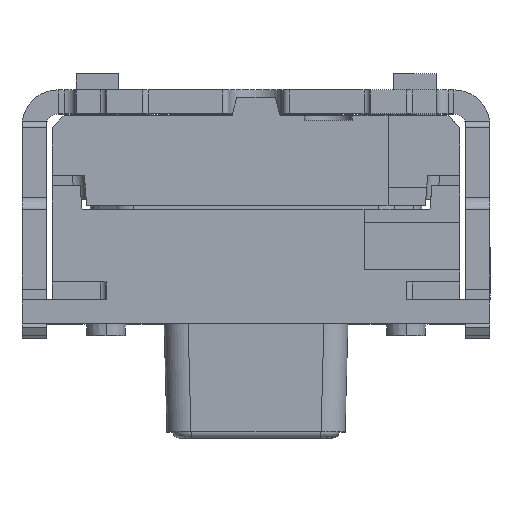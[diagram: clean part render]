
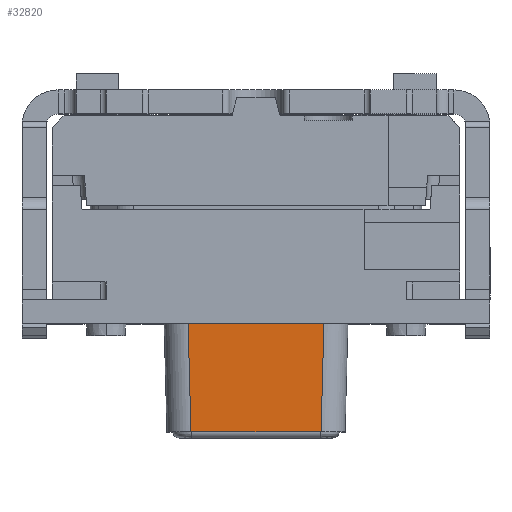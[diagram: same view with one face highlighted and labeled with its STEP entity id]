
A CAD part, top view. The second image highlights one B-rep face of the part: STEP entity #32820.
In plain terms, the highlighted planar face has unit normal (0, -0.018, 1).
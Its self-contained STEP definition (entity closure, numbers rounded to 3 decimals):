
#31582 = PLANE('',#31583);
#31583 = AXIS2_PLACEMENT_3D('',#31584,#31585,#31586);
#31584 = CARTESIAN_POINT('',(0.,-0.2,0.775));
#31585 = DIRECTION('',(0.,-1.,0.));
#31586 = DIRECTION('',(0.,0.,-1.));
#32188 = VERTEX_POINT('',#32189);
#32189 = CARTESIAN_POINT('',(-0.575,-0.2,1.225));
#32205 = CYLINDRICAL_SURFACE('',#32206,0.2);
#32206 = AXIS2_PLACEMENT_3D('',#32207,#32208,#32209);
#32207 = CARTESIAN_POINT('',(-0.575,-0.199,
    1.025));
#32208 = DIRECTION('',(-0.026,1.,
    0.017));
#32209 = DIRECTION('',(1.,0.026,
    0.));
#32239 = EDGE_CURVE('',#32240,#32188,#32242,.T.);
#32240 = VERTEX_POINT('',#32241);
#32241 = CARTESIAN_POINT('',(0.575,-0.2,1.225));
#32242 = SURFACE_CURVE('',#32243,(#32247,#32254),.PCURVE_S1.);
#32243 = LINE('',#32244,#32245);
#32244 = CARTESIAN_POINT('',(-1.063,-0.2,1.225));
#32245 = VECTOR('',#32246,1.);
#32246 = DIRECTION('',(-1.,-0.,0.));
#32247 = PCURVE('',#31582,#32248);
#32248 = DEFINITIONAL_REPRESENTATION('',(#32249),#32253);
#32249 = LINE('',#32250,#32251);
#32250 = CARTESIAN_POINT('',(-0.45,-1.063));
#32251 = VECTOR('',#32252,1.);
#32252 = DIRECTION('',(-0.,-1.));
#32253 = ( GEOMETRIC_REPRESENTATION_CONTEXT(2) 
PARAMETRIC_REPRESENTATION_CONTEXT() REPRESENTATION_CONTEXT('2D SPACE',''
  ) );
#32254 = PCURVE('',#32255,#32260);
#32255 = PLANE('',#32256);
#32256 = AXIS2_PLACEMENT_3D('',#32257,#32258,#32259);
#32257 = CARTESIAN_POINT('',(0.,-0.2,1.225));
#32258 = DIRECTION('',(0.,-0.017,1.));
#32259 = DIRECTION('',(0.,-1.,-0.017));
#32260 = DEFINITIONAL_REPRESENTATION('',(#32261),#32265);
#32261 = LINE('',#32262,#32263);
#32262 = CARTESIAN_POINT('',(-0.,-1.063));
#32263 = VECTOR('',#32264,1.);
#32264 = DIRECTION('',(-0.,-1.));
#32265 = ( GEOMETRIC_REPRESENTATION_CONTEXT(2) 
PARAMETRIC_REPRESENTATION_CONTEXT() REPRESENTATION_CONTEXT('2D SPACE',''
  ) );
#32285 = CYLINDRICAL_SURFACE('',#32286,0.2);
#32286 = AXIS2_PLACEMENT_3D('',#32287,#32288,#32289);
#32287 = CARTESIAN_POINT('',(0.575,-0.212,
    1.025));
#32288 = DIRECTION('',(0.026,1.,
    0.017));
#32289 = DIRECTION('',(1.,-0.026,
    0.));
#32766 = PLANE('',#32767);
#32767 = AXIS2_PLACEMENT_3D('',#32768,#32769,#32770);
#32768 = CARTESIAN_POINT('',(0.091,-1.45,1.007));
#32769 = DIRECTION('',(0.,-1.,0.));
#32770 = DIRECTION('',(0.,0.,-1.));
#32820 = ADVANCED_FACE('',(#32821),#32255,.T.);
#32821 = FACE_BOUND('',#32822,.T.);
#32822 = EDGE_LOOP('',(#32823,#32848,#32869,#32870));
#32823 = ORIENTED_EDGE('',*,*,#32824,.F.);
#32824 = EDGE_CURVE('',#32825,#32827,#32829,.T.);
#32825 = VERTEX_POINT('',#32826);
#32826 = CARTESIAN_POINT('',(0.542,-1.45,1.203));
#32827 = VERTEX_POINT('',#32828);
#32828 = CARTESIAN_POINT('',(-0.542,-1.45,1.203));
#32829 = SURFACE_CURVE('',#32830,(#32834,#32841),.PCURVE_S1.);
#32830 = LINE('',#32831,#32832);
#32831 = CARTESIAN_POINT('',(0.,-1.45,1.203));
#32832 = VECTOR('',#32833,1.);
#32833 = DIRECTION('',(-1.,0.,0.));
#32834 = PCURVE('',#32255,#32835);
#32835 = DEFINITIONAL_REPRESENTATION('',(#32836),#32840);
#32836 = LINE('',#32837,#32838);
#32837 = CARTESIAN_POINT('',(1.25,0.));
#32838 = VECTOR('',#32839,1.);
#32839 = DIRECTION('',(-0.,-1.));
#32840 = ( GEOMETRIC_REPRESENTATION_CONTEXT(2) 
PARAMETRIC_REPRESENTATION_CONTEXT() REPRESENTATION_CONTEXT('2D SPACE',''
  ) );
#32841 = PCURVE('',#32766,#32842);
#32842 = DEFINITIONAL_REPRESENTATION('',(#32843),#32847);
#32843 = LINE('',#32844,#32845);
#32844 = CARTESIAN_POINT('',(-0.196,-0.091));
#32845 = VECTOR('',#32846,1.);
#32846 = DIRECTION('',(-0.,-1.));
#32847 = ( GEOMETRIC_REPRESENTATION_CONTEXT(2) 
PARAMETRIC_REPRESENTATION_CONTEXT() REPRESENTATION_CONTEXT('2D SPACE',''
  ) );
#32848 = ORIENTED_EDGE('',*,*,#32849,.T.);
#32849 = EDGE_CURVE('',#32825,#32240,#32850,.T.);
#32850 = SURFACE_CURVE('',#32851,(#32855,#32862),.PCURVE_S1.);
#32851 = LINE('',#32852,#32853);
#32852 = CARTESIAN_POINT('',(0.575,-0.215,
    1.225));
#32853 = VECTOR('',#32854,1.);
#32854 = DIRECTION('',(0.026,1.,
    0.017));
#32855 = PCURVE('',#32255,#32856);
#32856 = DEFINITIONAL_REPRESENTATION('',(#32857),#32861);
#32857 = LINE('',#32858,#32859);
#32858 = CARTESIAN_POINT('',(0.015,0.575));
#32859 = VECTOR('',#32860,1.);
#32860 = DIRECTION('',(-1.,0.026));
#32861 = ( GEOMETRIC_REPRESENTATION_CONTEXT(2) 
PARAMETRIC_REPRESENTATION_CONTEXT() REPRESENTATION_CONTEXT('2D SPACE',''
  ) );
#32862 = PCURVE('',#32285,#32863);
#32863 = DEFINITIONAL_REPRESENTATION('',(#32864),#32868);
#32864 = LINE('',#32865,#32866);
#32865 = CARTESIAN_POINT('',(4.713,0.));
#32866 = VECTOR('',#32867,1.);
#32867 = DIRECTION('',(0.,1.));
#32868 = ( GEOMETRIC_REPRESENTATION_CONTEXT(2) 
PARAMETRIC_REPRESENTATION_CONTEXT() REPRESENTATION_CONTEXT('2D SPACE',''
  ) );
#32869 = ORIENTED_EDGE('',*,*,#32239,.T.);
#32870 = ORIENTED_EDGE('',*,*,#32871,.T.);
#32871 = EDGE_CURVE('',#32188,#32827,#32872,.T.);
#32872 = SURFACE_CURVE('',#32873,(#32877,#32884),.PCURVE_S1.);
#32873 = LINE('',#32874,#32875);
#32874 = CARTESIAN_POINT('',(-0.575,-0.215,
    1.225));
#32875 = VECTOR('',#32876,1.);
#32876 = DIRECTION('',(0.026,-1.,
    -0.017));
#32877 = PCURVE('',#32255,#32878);
#32878 = DEFINITIONAL_REPRESENTATION('',(#32879),#32883);
#32879 = LINE('',#32880,#32881);
#32880 = CARTESIAN_POINT('',(0.015,-0.575));
#32881 = VECTOR('',#32882,1.);
#32882 = DIRECTION('',(1.,0.026));
#32883 = ( GEOMETRIC_REPRESENTATION_CONTEXT(2) 
PARAMETRIC_REPRESENTATION_CONTEXT() REPRESENTATION_CONTEXT('2D SPACE',''
  ) );
#32884 = PCURVE('',#32205,#32885);
#32885 = DEFINITIONAL_REPRESENTATION('',(#32886),#32890);
#32886 = LINE('',#32887,#32888);
#32887 = CARTESIAN_POINT('',(4.712,-0.012));
#32888 = VECTOR('',#32889,1.);
#32889 = DIRECTION('',(0.,-1.));
#32890 = ( GEOMETRIC_REPRESENTATION_CONTEXT(2) 
PARAMETRIC_REPRESENTATION_CONTEXT() REPRESENTATION_CONTEXT('2D SPACE',''
  ) );
